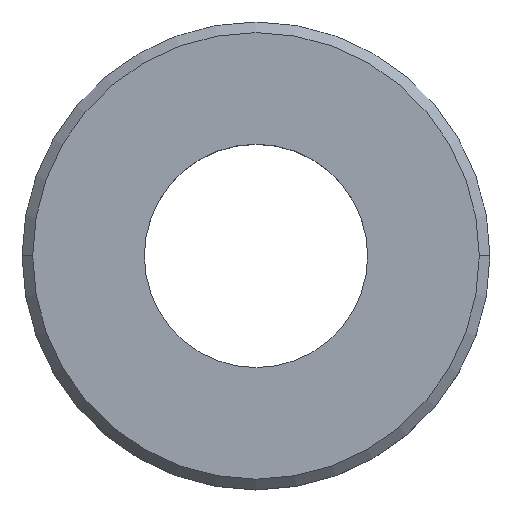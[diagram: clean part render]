
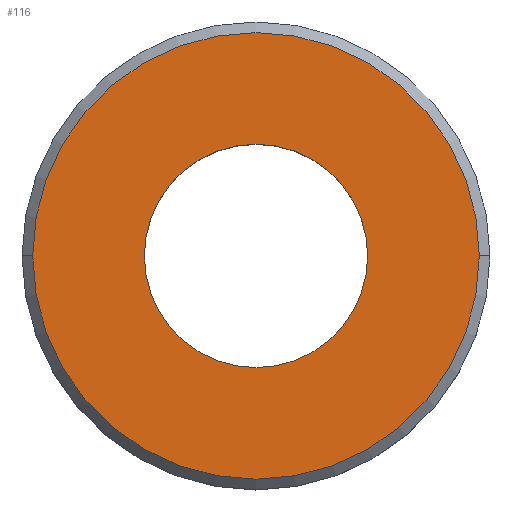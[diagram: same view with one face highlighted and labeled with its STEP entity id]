
A CAD part, top view. The second image highlights one B-rep face of the part: STEP entity #116.
In plain terms, the highlighted planar face has unit normal (0, 0, 1).
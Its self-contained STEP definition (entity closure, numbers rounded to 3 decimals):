
#39=AXIS2_PLACEMENT_3D('Circle Axis2P3D',#37,#38,$) ;
#74=AXIS2_PLACEMENT_3D('Circle Axis2P3D',#72,#73,$) ;
#92=AXIS2_PLACEMENT_3D('Plane Axis2P3D',#89,#90,#91) ;
#96=AXIS2_PLACEMENT_3D('Circle Axis2P3D',#94,#95,$) ;
#105=AXIS2_PLACEMENT_3D('Circle Axis2P3D',#103,#104,$) ;
#37=CARTESIAN_POINT('Axis2P3D Location',(0.,0.,5.)) ;
#41=CARTESIAN_POINT('Vertex',(-5.25,0.,5.)) ;
#43=CARTESIAN_POINT('Vertex',(5.25,0.,5.)) ;
#72=CARTESIAN_POINT('Axis2P3D Location',(0.,0.,5.)) ;
#89=CARTESIAN_POINT('Axis2P3D Location',(0.,0.,5.)) ;
#94=CARTESIAN_POINT('Axis2P3D Location',(0.,0.,5.)) ;
#98=CARTESIAN_POINT('Vertex',(10.5,0.,5.)) ;
#100=CARTESIAN_POINT('Vertex',(-10.5,0.,5.)) ;
#103=CARTESIAN_POINT('Axis2P3D Location',(0.,0.,5.)) ;
#38=DIRECTION('Axis2P3D Direction',(0.,0.,1.)) ;
#73=DIRECTION('Axis2P3D Direction',(0.,0.,1.)) ;
#90=DIRECTION('Axis2P3D Direction',(0.,0.,1.)) ;
#91=DIRECTION('Axis2P3D XDirection',(1.,0.,0.)) ;
#95=DIRECTION('Axis2P3D Direction',(0.,0.,1.)) ;
#104=DIRECTION('Axis2P3D Direction',(0.,0.,1.)) ;
#109=ORIENTED_EDGE('',*,*,#102,.T.) ;
#110=ORIENTED_EDGE('',*,*,#107,.T.) ;
#113=ORIENTED_EDGE('',*,*,#45,.F.) ;
#114=ORIENTED_EDGE('',*,*,#76,.F.) ;
#115=FACE_BOUND('',#112,.T.) ;
#116=ADVANCED_FACE('\X2\96F64EF651E04F554F53\X0\',(#111,#115),#93,.T.) ;
#40=CIRCLE('generated circle',#39,5.25) ;
#75=CIRCLE('generated circle',#74,5.25) ;
#97=CIRCLE('generated circle',#96,10.5) ;
#106=CIRCLE('generated circle',#105,10.5) ;
#45=EDGE_CURVE('',#42,#44,#40,.T.) ;
#76=EDGE_CURVE('',#44,#42,#75,.T.) ;
#102=EDGE_CURVE('',#99,#101,#97,.T.) ;
#107=EDGE_CURVE('',#101,#99,#106,.T.) ;
#108=EDGE_LOOP('',(#109,#110)) ;
#112=EDGE_LOOP('',(#113,#114)) ;
#111=FACE_OUTER_BOUND('',#108,.T.) ;
#93=PLANE('',#92) ;
#42=VERTEX_POINT('',#41) ;
#44=VERTEX_POINT('',#43) ;
#99=VERTEX_POINT('',#98) ;
#101=VERTEX_POINT('',#100) ;
